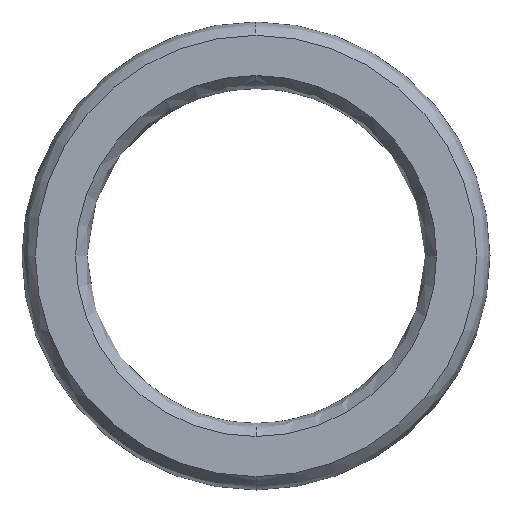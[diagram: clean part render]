
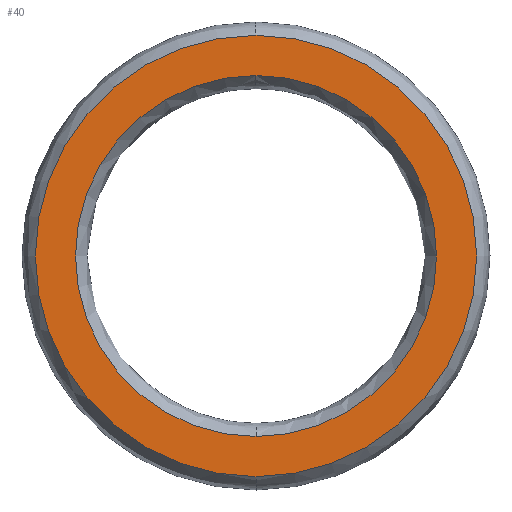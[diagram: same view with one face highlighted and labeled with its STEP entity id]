
A CAD part, left-side view. The second image highlights one B-rep face of the part: STEP entity #40.
In plain terms, the highlighted planar face has unit normal (-1, 0, 0).
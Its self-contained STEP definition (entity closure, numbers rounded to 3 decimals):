
#6 = ORIENTED_EDGE ( 'NONE', *, *, #340, .T. ) ;
#23 = CARTESIAN_POINT ( 'NONE',  ( 0., 0., -4.05 ) ) ;
#24 = AXIS2_PLACEMENT_3D ( 'NONE', #270, #243, #358 ) ;
#28 = DIRECTION ( 'NONE',  ( 1., 0., 0. ) ) ;
#29 = CARTESIAN_POINT ( 'NONE',  ( 0., 0., -4.95 ) ) ;
#40 = ADVANCED_FACE ( 'NONE', ( #137, #194 ), #277, .T. ) ;
#44 = EDGE_LOOP ( 'NONE', ( #98, #6 ) ) ;
#47 = AXIS2_PLACEMENT_3D ( 'NONE', #154, #28, #353 ) ;
#53 = DIRECTION ( 'NONE',  ( -1., 0., 0. ) ) ;
#54 = CIRCLE ( 'NONE', #24, 4.05 ) ;
#56 = DIRECTION ( 'NONE',  ( -1., 0., 0. ) ) ;
#77 = DIRECTION ( 'NONE',  ( 0., -1., 0. ) ) ;
#78 = CIRCLE ( 'NONE', #213, 4.95 ) ;
#86 = CARTESIAN_POINT ( 'NONE',  ( 0., 0., 4.95 ) ) ;
#98 = ORIENTED_EDGE ( 'NONE', *, *, #278, .T. ) ;
#134 = CARTESIAN_POINT ( 'NONE',  ( 0., 4.5, 0. ) ) ;
#137 = FACE_BOUND ( 'NONE', #44, .T. ) ;
#154 = CARTESIAN_POINT ( 'NONE',  ( 0., 0., 0. ) ) ;
#164 = EDGE_CURVE ( 'NONE', #279, #251, #78, .T. ) ;
#168 = CIRCLE ( 'NONE', #351, 4.95 ) ;
#192 = EDGE_LOOP ( 'NONE', ( #193, #224 ) ) ;
#193 = ORIENTED_EDGE ( 'NONE', *, *, #367, .T. ) ;
#194 = FACE_OUTER_BOUND ( 'NONE', #192, .T. ) ;
#204 = CARTESIAN_POINT ( 'NONE',  ( 0., 0., 4.05 ) ) ;
#213 = AXIS2_PLACEMENT_3D ( 'NONE', #316, #53, #290 ) ;
#224 = ORIENTED_EDGE ( 'NONE', *, *, #164, .T. ) ;
#241 = CIRCLE ( 'NONE', #47, 4.05 ) ;
#243 = DIRECTION ( 'NONE',  ( 1., 0., 0. ) ) ;
#251 = VERTEX_POINT ( 'NONE', #29 ) ;
#252 = CARTESIAN_POINT ( 'NONE',  ( 0., 0., 0. ) ) ;
#270 = CARTESIAN_POINT ( 'NONE',  ( 0., 0., 0. ) ) ;
#277 = PLANE ( 'NONE',  #330 ) ;
#278 = EDGE_CURVE ( 'NONE', #368, #280, #241, .T. ) ;
#279 = VERTEX_POINT ( 'NONE', #86 ) ;
#280 = VERTEX_POINT ( 'NONE', #204 ) ;
#282 = DIRECTION ( 'NONE',  ( 0., 0., -1. ) ) ;
#290 = DIRECTION ( 'NONE',  ( 0., 0., -1. ) ) ;
#316 = CARTESIAN_POINT ( 'NONE',  ( 0., 0., 0. ) ) ;
#330 = AXIS2_PLACEMENT_3D ( 'NONE', #134, #339, #77 ) ;
#339 = DIRECTION ( 'NONE',  ( -1., 0., 0. ) ) ;
#340 = EDGE_CURVE ( 'NONE', #280, #368, #54, .T. ) ;
#351 = AXIS2_PLACEMENT_3D ( 'NONE', #252, #56, #282 ) ;
#353 = DIRECTION ( 'NONE',  ( 0., 0., -1. ) ) ;
#358 = DIRECTION ( 'NONE',  ( 0., 0., -1. ) ) ;
#367 = EDGE_CURVE ( 'NONE', #251, #279, #168, .T. ) ;
#368 = VERTEX_POINT ( 'NONE', #23 ) ;
